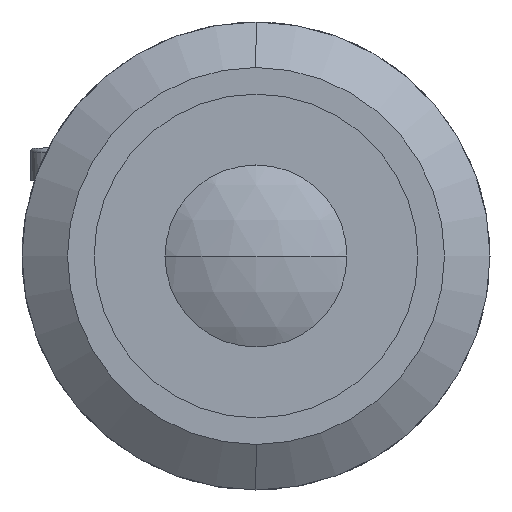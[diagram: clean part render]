
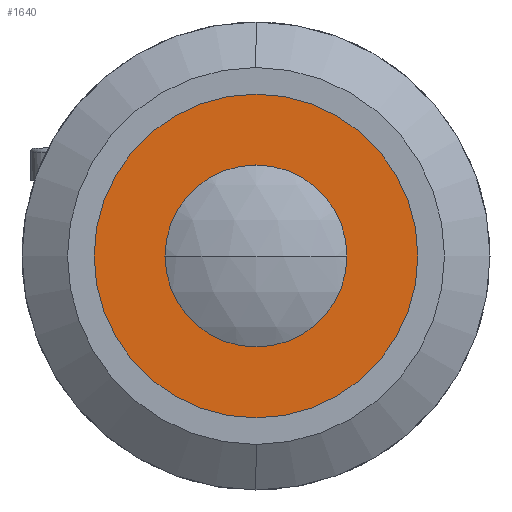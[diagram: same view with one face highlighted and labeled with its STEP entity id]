
A CAD part, left-side view. The second image highlights one B-rep face of the part: STEP entity #1640.
In plain terms, the highlighted planar face has unit normal (-1, 0, 0).
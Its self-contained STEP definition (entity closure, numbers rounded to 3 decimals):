
#11 = CIRCLE ( 'NONE', #2019, 7. ) ;
#183 = EDGE_LOOP ( 'NONE', ( #459, #498 ) ) ;
#302 = CARTESIAN_POINT ( 'NONE',  ( 3.8, 0., 13. ) ) ;
#397 = CIRCLE ( 'NONE', #2218, 13. ) ;
#459 = ORIENTED_EDGE ( 'NONE', *, *, #3330, .F. ) ;
#498 = ORIENTED_EDGE ( 'NONE', *, *, #3118, .F. ) ;
#522 = ORIENTED_EDGE ( 'NONE', *, *, #3295, .T. ) ;
#567 = AXIS2_PLACEMENT_3D ( 'NONE', #2412, #3014, #1264 ) ;
#570 = ORIENTED_EDGE ( 'NONE', *, *, #3177, .T. ) ;
#672 = DIRECTION ( 'NONE',  ( -1., 0., 0. ) ) ;
#683 = PLANE ( 'NONE',  #567 ) ;
#765 = CARTESIAN_POINT ( 'NONE',  ( 3.8, 0., -7. ) ) ;
#828 = DIRECTION ( 'NONE',  ( -1., 0., 0. ) ) ;
#862 = CIRCLE ( 'NONE', #2348, 7. ) ;
#1153 = CARTESIAN_POINT ( 'NONE',  ( 3.8, 0., 0. ) ) ;
#1264 = DIRECTION ( 'NONE',  ( 0., 0., -1. ) ) ;
#1373 = VERTEX_POINT ( 'NONE', #765 ) ;
#1442 = DIRECTION ( 'NONE',  ( 0., 0., 1. ) ) ;
#1521 = EDGE_LOOP ( 'NONE', ( #522, #570 ) ) ;
#1640 = ADVANCED_FACE ( 'NONE', ( #3022, #2842 ), #683, .F. ) ;
#1654 = DIRECTION ( 'NONE',  ( -1., 0., 0. ) ) ;
#2019 = AXIS2_PLACEMENT_3D ( 'NONE', #1153, #3184, #1442 ) ;
#2057 = VERTEX_POINT ( 'NONE', #302 ) ;
#2124 = AXIS2_PLACEMENT_3D ( 'NONE', #2575, #828, #2872 ) ;
#2218 = AXIS2_PLACEMENT_3D ( 'NONE', #3368, #1654, #3604 ) ;
#2348 = AXIS2_PLACEMENT_3D ( 'NONE', #2413, #672, #2701 ) ;
#2412 = CARTESIAN_POINT ( 'NONE',  ( 3.8, 13., 0. ) ) ;
#2413 = CARTESIAN_POINT ( 'NONE',  ( 3.8, 0., 0. ) ) ;
#2575 = CARTESIAN_POINT ( 'NONE',  ( 3.8, 0., 0. ) ) ;
#2701 = DIRECTION ( 'NONE',  ( 0., 0., 1. ) ) ;
#2781 = CIRCLE ( 'NONE', #2124, 13. ) ;
#2804 = VERTEX_POINT ( 'NONE', #3187 ) ;
#2842 = FACE_OUTER_BOUND ( 'NONE', #1521, .T. ) ;
#2872 = DIRECTION ( 'NONE',  ( 0., 0., 1. ) ) ;
#2946 = VERTEX_POINT ( 'NONE', #3436 ) ;
#3014 = DIRECTION ( 'NONE',  ( 1., 0., 0. ) ) ;
#3022 = FACE_BOUND ( 'NONE', #183, .T. ) ;
#3118 = EDGE_CURVE ( 'NONE', #1373, #2946, #862, .T. ) ;
#3177 = EDGE_CURVE ( 'NONE', #2804, #2057, #397, .T. ) ;
#3184 = DIRECTION ( 'NONE',  ( -1., 0., 0. ) ) ;
#3187 = CARTESIAN_POINT ( 'NONE',  ( 3.8, 0., -13. ) ) ;
#3295 = EDGE_CURVE ( 'NONE', #2057, #2804, #2781, .T. ) ;
#3330 = EDGE_CURVE ( 'NONE', #2946, #1373, #11, .T. ) ;
#3368 = CARTESIAN_POINT ( 'NONE',  ( 3.8, 0., 0. ) ) ;
#3436 = CARTESIAN_POINT ( 'NONE',  ( 3.8, 0., 7. ) ) ;
#3604 = DIRECTION ( 'NONE',  ( 0., 0., 1. ) ) ;
